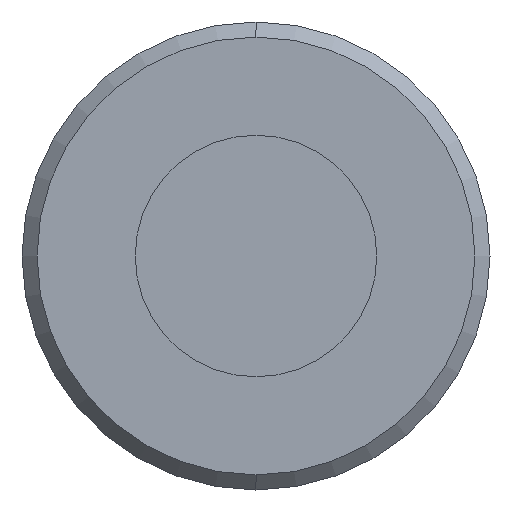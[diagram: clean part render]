
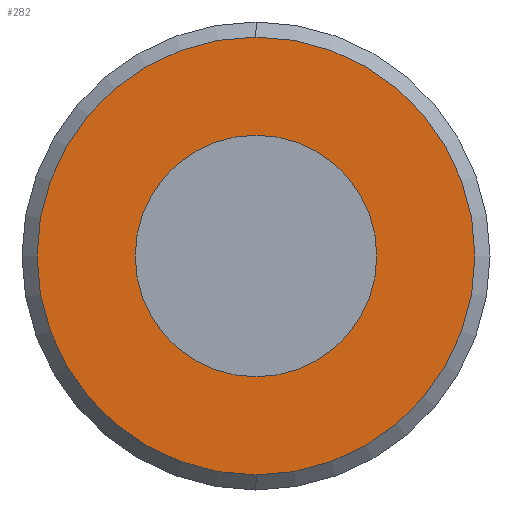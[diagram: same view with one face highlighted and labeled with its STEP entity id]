
A CAD part, left-side view. The second image highlights one B-rep face of the part: STEP entity #282.
In plain terms, the highlighted planar face has unit normal (-1, 0, 0).
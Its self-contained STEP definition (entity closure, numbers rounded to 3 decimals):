
#6 = EDGE_CURVE ( 'NONE', #528, #385, #871, .T. ) ;
#12 = ORIENTED_EDGE ( 'NONE', *, *, #708, .T. ) ;
#18 = PLANE ( 'NONE',  #926 ) ;
#41 = DIRECTION ( 'NONE',  ( -1., 0., 0. ) ) ;
#54 = AXIS2_PLACEMENT_3D ( 'NONE', #597, #41, #108 ) ;
#108 = DIRECTION ( 'NONE',  ( 0., 0., 1. ) ) ;
#125 = FACE_BOUND ( 'NONE', #839, .T. ) ;
#141 = DIRECTION ( 'NONE',  ( -1., 0., 0. ) ) ;
#154 = AXIS2_PLACEMENT_3D ( 'NONE', #601, #273, #369 ) ;
#165 = EDGE_CURVE ( 'NONE', #385, #528, #921, .T. ) ;
#270 = EDGE_CURVE ( 'NONE', #743, #586, #763, .T. ) ;
#273 = DIRECTION ( 'NONE',  ( -1., 0., 0. ) ) ;
#277 = ORIENTED_EDGE ( 'NONE', *, *, #165, .F. ) ;
#282 = ADVANCED_FACE ( 'NONE', ( #125, #946 ), #18, .F. ) ;
#324 = CARTESIAN_POINT ( 'NONE',  ( 66.8, 0., -8. ) ) ;
#332 = ORIENTED_EDGE ( 'NONE', *, *, #270, .T. ) ;
#356 = CARTESIAN_POINT ( 'NONE',  ( 66.8, 14.5, 0. ) ) ;
#369 = DIRECTION ( 'NONE',  ( 0., 0., 1. ) ) ;
#373 = AXIS2_PLACEMENT_3D ( 'NONE', #507, #435, #893 ) ;
#385 = VERTEX_POINT ( 'NONE', #324 ) ;
#435 = DIRECTION ( 'NONE',  ( -1., 0., 0. ) ) ;
#507 = CARTESIAN_POINT ( 'NONE',  ( 66.8, 0., 0. ) ) ;
#528 = VERTEX_POINT ( 'NONE', #887 ) ;
#586 = VERTEX_POINT ( 'NONE', #644 ) ;
#597 = CARTESIAN_POINT ( 'NONE',  ( 66.8, 0., 0. ) ) ;
#601 = CARTESIAN_POINT ( 'NONE',  ( 66.8, 0., 0. ) ) ;
#603 = CARTESIAN_POINT ( 'NONE',  ( 66.8, 0., -14.5 ) ) ;
#630 = CARTESIAN_POINT ( 'NONE',  ( 66.8, 0., 0. ) ) ;
#644 = CARTESIAN_POINT ( 'NONE',  ( 66.8, 0., 14.5 ) ) ;
#672 = AXIS2_PLACEMENT_3D ( 'NONE', #630, #141, #707 ) ;
#707 = DIRECTION ( 'NONE',  ( 0., 0., 1. ) ) ;
#708 = EDGE_CURVE ( 'NONE', #586, #743, #880, .T. ) ;
#743 = VERTEX_POINT ( 'NONE', #603 ) ;
#745 = DIRECTION ( 'NONE',  ( 0., 0., -1. ) ) ;
#763 = CIRCLE ( 'NONE', #373, 14.5 ) ;
#839 = EDGE_LOOP ( 'NONE', ( #1008, #277 ) ) ;
#871 = CIRCLE ( 'NONE', #154, 8. ) ;
#880 = CIRCLE ( 'NONE', #54, 14.5 ) ;
#887 = CARTESIAN_POINT ( 'NONE',  ( 66.8, 0., 8. ) ) ;
#890 = DIRECTION ( 'NONE',  ( 1., 0., 0. ) ) ;
#893 = DIRECTION ( 'NONE',  ( 0., 0., 1. ) ) ;
#921 = CIRCLE ( 'NONE', #672, 8. ) ;
#926 = AXIS2_PLACEMENT_3D ( 'NONE', #356, #890, #745 ) ;
#946 = FACE_OUTER_BOUND ( 'NONE', #1000, .T. ) ;
#1000 = EDGE_LOOP ( 'NONE', ( #332, #12 ) ) ;
#1008 = ORIENTED_EDGE ( 'NONE', *, *, #6, .F. ) ;
